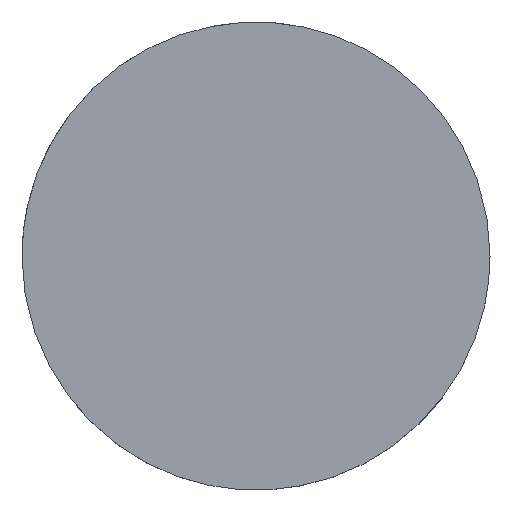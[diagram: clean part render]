
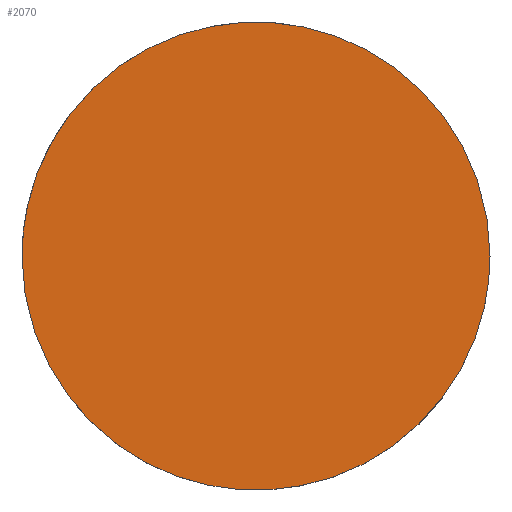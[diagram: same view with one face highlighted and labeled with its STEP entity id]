
A CAD part, top view. The second image highlights one B-rep face of the part: STEP entity #2070.
In plain terms, the highlighted planar face has unit normal (0, 0, 1).
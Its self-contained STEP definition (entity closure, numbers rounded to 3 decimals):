
#190 = CARTESIAN_POINT ('', (-6.25, 0., -12.32));
#200 = VERTEX_POINT ('', #190);
#260 = CARTESIAN_POINT ('', (6.25, 0., -12.32));
#270 = VERTEX_POINT ('', #260);
#280 = CARTESIAN_POINT ('', (6.25, 0., -12.32));
#290 = CARTESIAN_POINT ('', (6.25, 6.25, -12.32));
#300 = CARTESIAN_POINT ('', (0., 6.25, -12.32));
#310 = CARTESIAN_POINT ('', (-6.25, 6.25, -12.32));
#320 = CARTESIAN_POINT ('', (-6.25, 0., -12.32));
#330 = (
   BOUNDED_CURVE ()
   B_SPLINE_CURVE (2, (#280, #290, #300, #310, #320), .UNSPECIFIED., .F., .U.)
   B_SPLINE_CURVE_WITH_KNOTS ((3, 2, 3), (0., 1.571, 3.142), .UNSPECIFIED.)
   CURVE ()
   GEOMETRIC_REPRESENTATION_ITEM ()
   RATIONAL_B_SPLINE_CURVE ((1., 0.707, 1., 0.707, 1.))
   REPRESENTATION_ITEM ('')
);
#340 = EDGE_CURVE ('', #270, #200, #330, .T.);
#580 = CARTESIAN_POINT ('', (-6.25, 0., -12.32));
#590 = CARTESIAN_POINT ('', (-6.25, -6.25, -12.32));
#600 = CARTESIAN_POINT ('', (0., -6.25, -12.32));
#610 = CARTESIAN_POINT ('', (6.25, -6.25, -12.32));
#620 = CARTESIAN_POINT ('', (6.25, 0., -12.32));
#630 = (
   BOUNDED_CURVE ()
   B_SPLINE_CURVE (2, (#580, #590, #600, #610, #620), .UNSPECIFIED., .F., .U.)
   B_SPLINE_CURVE_WITH_KNOTS ((3, 2, 3), (3.142, 4.712, 6.283), .UNSPECIFIED.)
   CURVE ()
   GEOMETRIC_REPRESENTATION_ITEM ()
   RATIONAL_B_SPLINE_CURVE ((1., 0.707, 1., 0.707, 1.))
   REPRESENTATION_ITEM ('')
);
#640 = EDGE_CURVE ('', #200, #270, #630, .T.);
#1980 = ORIENTED_EDGE ('', *, *, #340, .T.);
#1990 = ORIENTED_EDGE ('', *, *, #640, .T.);
#2000 = EDGE_LOOP ('', (#1980, #1990));
#2010 = FACE_OUTER_BOUND ('', #2000, .T.);
#2020 = CARTESIAN_POINT ('', (0., 12.954, -12.32));
#2030 = DIRECTION ('', (0., 0., 1.));
#2040 = DIRECTION ('', (-0.707, -0.707, 0.));
#2050 = AXIS2_PLACEMENT_3D ('', #2020, #2030, #2040);
#2060 = PLANE ('', #2050);
#2070 = ADVANCED_FACE ('', (#2010), #2060, .T.);
